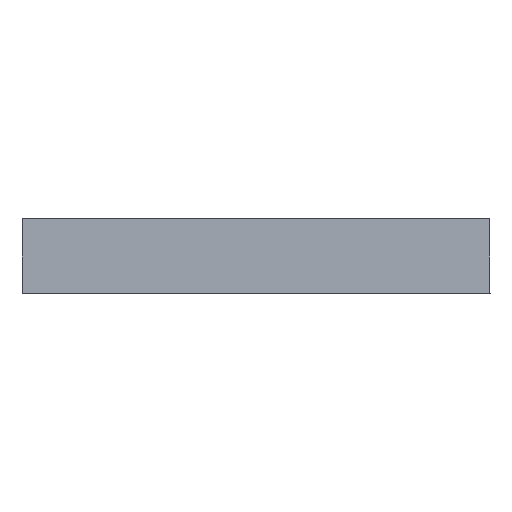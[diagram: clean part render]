
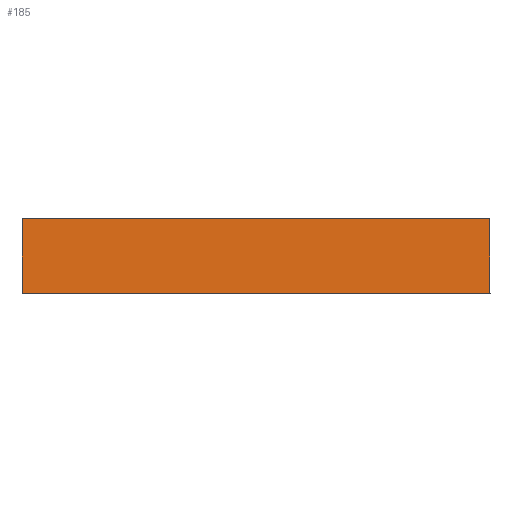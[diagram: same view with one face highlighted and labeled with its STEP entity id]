
A CAD part, left-side view. The second image highlights one B-rep face of the part: STEP entity #185.
In plain terms, the highlighted planar face has unit normal (-0.707, -0.707, 0).
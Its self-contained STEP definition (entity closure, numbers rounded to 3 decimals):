
#3 = EDGE_CURVE ( 'NONE', #164, #220, #212, .T. ) ;
#33 = EDGE_CURVE ( 'NONE', #164, #145, #244, .T. ) ;
#37 = DIRECTION ( 'NONE',  ( 0.707, -0.707, 0. ) ) ;
#44 = VECTOR ( 'NONE', #37, 1000. ) ;
#54 = ORIENTED_EDGE ( 'NONE', *, *, #213, .F. ) ;
#67 = CARTESIAN_POINT ( 'NONE',  ( -186., 0., -4. ) ) ;
#69 = VECTOR ( 'NONE', #137, 1000. ) ;
#70 = FACE_OUTER_BOUND ( 'NONE', #165, .T. ) ;
#90 = DIRECTION ( 'NONE',  ( 0., 0., 1. ) ) ;
#99 = AXIS2_PLACEMENT_3D ( 'NONE', #254, #182, #256 ) ;
#113 = CARTESIAN_POINT ( 'NONE',  ( -161., -25., 0. ) ) ;
#123 = CARTESIAN_POINT ( 'NONE',  ( -186., 0., -4. ) ) ;
#133 = LINE ( 'NONE', #253, #258 ) ;
#134 = CARTESIAN_POINT ( 'NONE',  ( -186., 0., 0. ) ) ;
#135 = DIRECTION ( 'NONE',  ( 0.707, -0.707, 0. ) ) ;
#137 = DIRECTION ( 'NONE',  ( 0., 0., 1. ) ) ;
#141 = ORIENTED_EDGE ( 'NONE', *, *, #3, .F. ) ;
#145 = VERTEX_POINT ( 'NONE', #196 ) ;
#164 = VERTEX_POINT ( 'NONE', #228 ) ;
#165 = EDGE_LOOP ( 'NONE', ( #54, #141, #192, #241 ) ) ;
#181 = EDGE_CURVE ( 'NONE', #145, #245, #280, .T. ) ;
#182 = DIRECTION ( 'NONE',  ( -0.707, -0.707, 0. ) ) ;
#185 = ADVANCED_FACE ( 'NONE', ( #70 ), #276, .T. ) ;
#192 = ORIENTED_EDGE ( 'NONE', *, *, #33, .T. ) ;
#196 = CARTESIAN_POINT ( 'NONE',  ( -161., -25., -4. ) ) ;
#197 = VECTOR ( 'NONE', #90, 1000. ) ;
#212 = LINE ( 'NONE', #123, #69 ) ;
#213 = EDGE_CURVE ( 'NONE', #220, #245, #133, .T. ) ;
#220 = VERTEX_POINT ( 'NONE', #134 ) ;
#228 = CARTESIAN_POINT ( 'NONE',  ( -186., 0., -4. ) ) ;
#241 = ORIENTED_EDGE ( 'NONE', *, *, #181, .T. ) ;
#244 = LINE ( 'NONE', #67, #44 ) ;
#245 = VERTEX_POINT ( 'NONE', #113 ) ;
#253 = CARTESIAN_POINT ( 'NONE',  ( -186., 0., 0. ) ) ;
#254 = CARTESIAN_POINT ( 'NONE',  ( -186., 0., -4. ) ) ;
#256 = DIRECTION ( 'NONE',  ( 0.707, -0.707, 0. ) ) ;
#258 = VECTOR ( 'NONE', #135, 1000. ) ;
#276 = PLANE ( 'NONE',  #99 ) ;
#280 = LINE ( 'NONE', #295, #197 ) ;
#295 = CARTESIAN_POINT ( 'NONE',  ( -161., -25., -4. ) ) ;
